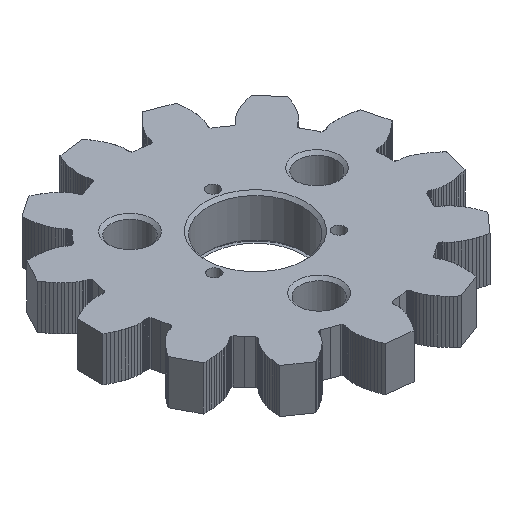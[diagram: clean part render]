
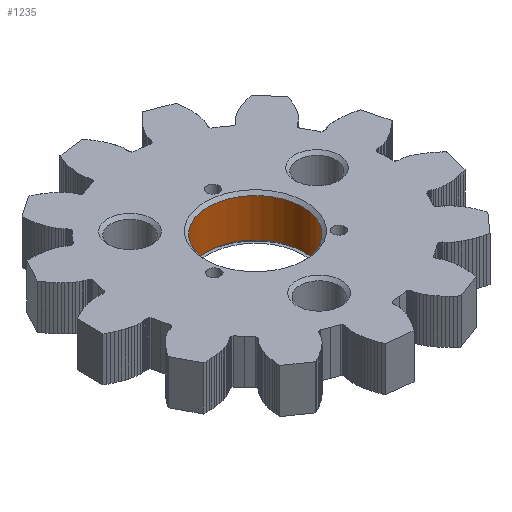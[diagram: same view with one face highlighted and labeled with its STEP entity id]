
A CAD part, isometric view. The second image highlights one B-rep face of the part: STEP entity #1235.
In plain terms, the highlighted cylindrical face has radius 16 mm (diameter 32 mm), a full revolution.
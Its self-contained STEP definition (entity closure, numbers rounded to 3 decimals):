
#1235 = ADVANCED_FACE( '', ( #2782, #2783 ), #2784, .F. );
#2782 = FACE_OUTER_BOUND( '', #4640, .T. );
#2783 = FACE_OUTER_BOUND( '', #4641, .T. );
#2784 = CYLINDRICAL_SURFACE( '', #4642, 16. );
#4640 = EDGE_LOOP( '', ( #9097 ) );
#4641 = EDGE_LOOP( '', ( #9098 ) );
#4642 = AXIS2_PLACEMENT_3D( '', #9099, #9100, #9101 );
#9097 = ORIENTED_EDGE( '', *, *, #12809, .T. );
#9098 = ORIENTED_EDGE( '', *, *, #13338, .T. );
#9099 = CARTESIAN_POINT( '', ( 0., 0., 0. ) );
#9100 = DIRECTION( '', ( 0., 0., -1. ) );
#9101 = DIRECTION( '', ( 1., 0., 0. ) );
#12809 = EDGE_CURVE( '', #16427, #16427, #16428, .T. );
#13338 = EDGE_CURVE( '', #17197, #17197, #17198, .T. );
#16427 = VERTEX_POINT( '', #21821 );
#16428 = CIRCLE( '', #21822, 16. );
#17197 = VERTEX_POINT( '', #22973 );
#17198 = CIRCLE( '', #22974, 16. );
#21821 = CARTESIAN_POINT( '', ( 16., 0., 14. ) );
#21822 = AXIS2_PLACEMENT_3D( '', #27644, #27645, #27646 );
#22973 = CARTESIAN_POINT( '', ( -16., 0., 1. ) );
#22974 = AXIS2_PLACEMENT_3D( '', #28032, #28033, #28034 );
#27644 = CARTESIAN_POINT( '', ( 0., 0., 14. ) );
#27645 = DIRECTION( '', ( 0., 0., 1. ) );
#27646 = DIRECTION( '', ( 1., 0., 0. ) );
#28032 = CARTESIAN_POINT( '', ( 0., 0., 1. ) );
#28033 = DIRECTION( '', ( 0., 0., -1. ) );
#28034 = DIRECTION( '', ( -1., 0., 0. ) );
